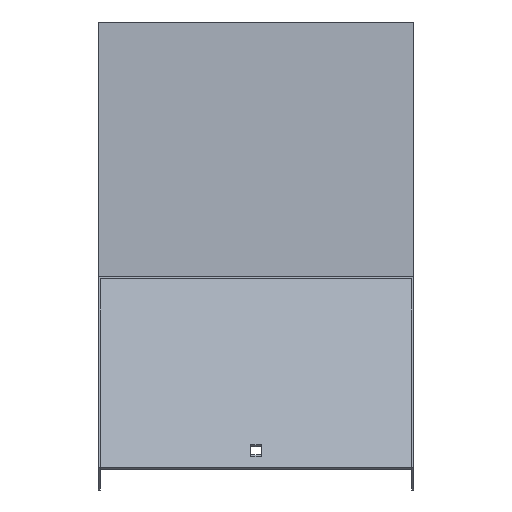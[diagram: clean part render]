
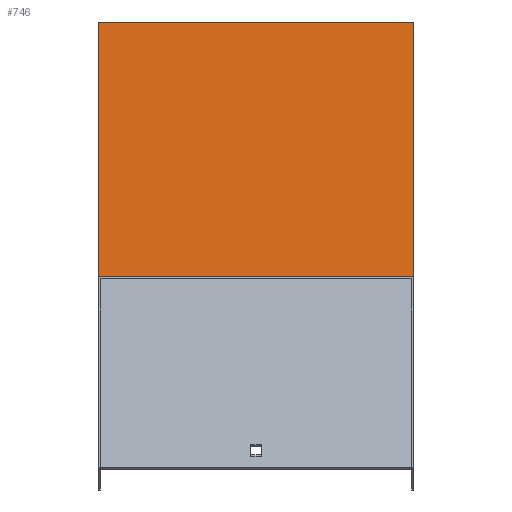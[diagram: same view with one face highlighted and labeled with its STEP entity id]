
A CAD part, top view. The second image highlights one B-rep face of the part: STEP entity #746.
In plain terms, the highlighted planar face has unit normal (0, 0.924, 0.383).
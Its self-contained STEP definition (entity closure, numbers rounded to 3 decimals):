
#16 = ORIENTED_EDGE ( 'NONE', *, *, #49, .T. ) ;
#49 = EDGE_CURVE ( 'NONE', #232, #540, #384, .T. ) ;
#54 = VERTEX_POINT ( 'NONE', #763 ) ;
#59 = EDGE_LOOP ( 'NONE', ( #218, #833, #368, #16 ) ) ;
#66 = LINE ( 'NONE', #664, #614 ) ;
#104 = EDGE_CURVE ( 'NONE', #232, #54, #66, .T. ) ;
#121 = DIRECTION ( 'NONE',  ( -1., 0., 0. ) ) ;
#168 = VECTOR ( 'NONE', #121, 1000. ) ;
#188 = CARTESIAN_POINT ( 'NONE',  ( 101.5, -144.537, 571.206 ) ) ;
#202 = DIRECTION ( 'NONE',  ( 0., -0.383, 0.924 ) ) ;
#218 = ORIENTED_EDGE ( 'NONE', *, *, #449, .T. ) ;
#232 = VERTEX_POINT ( 'NONE', #628 ) ;
#305 = VECTOR ( 'NONE', #202, 1000. ) ;
#352 = VECTOR ( 'NONE', #565, 1000. ) ;
#368 = ORIENTED_EDGE ( 'NONE', *, *, #104, .F. ) ;
#378 = DIRECTION ( 'NONE',  ( 0., -0.924, -0.383 ) ) ;
#384 = LINE ( 'NONE', #695, #352 ) ;
#449 = EDGE_CURVE ( 'NONE', #540, #705, #481, .T. ) ;
#461 = DIRECTION ( 'NONE',  ( 0., 0.383, -0.924 ) ) ;
#481 = LINE ( 'NONE', #732, #305 ) ;
#495 = CARTESIAN_POINT ( 'NONE',  ( -101.5, 20., 173.978 ) ) ;
#521 = LINE ( 'NONE', #188, #168 ) ;
#540 = VERTEX_POINT ( 'NONE', #495 ) ;
#565 = DIRECTION ( 'NONE',  ( -1., 0., 0. ) ) ;
#589 = CARTESIAN_POINT ( 'NONE',  ( -101.5, -144.537, 571.206 ) ) ;
#614 = VECTOR ( 'NONE', #715, 1000. ) ;
#628 = CARTESIAN_POINT ( 'NONE',  ( 101.5, 20., 173.978 ) ) ;
#664 = CARTESIAN_POINT ( 'NONE',  ( 101.5, 18.478, 177.654 ) ) ;
#695 = CARTESIAN_POINT ( 'NONE',  ( 101.5, 20., 173.978 ) ) ;
#705 = VERTEX_POINT ( 'NONE', #589 ) ;
#715 = DIRECTION ( 'NONE',  ( 0., -0.383, 0.924 ) ) ;
#732 = CARTESIAN_POINT ( 'NONE',  ( -101.5, 18.478, 177.654 ) ) ;
#746 = ADVANCED_FACE ( 'NONE', ( #849 ), #792, .F. ) ;
#753 = EDGE_CURVE ( 'NONE', #54, #705, #521, .T. ) ;
#763 = CARTESIAN_POINT ( 'NONE',  ( 101.5, -144.537, 571.206 ) ) ;
#771 = CARTESIAN_POINT ( 'NONE',  ( 101.5, 18.478, 177.654 ) ) ;
#792 = PLANE ( 'NONE',  #819 ) ;
#819 = AXIS2_PLACEMENT_3D ( 'NONE', #771, #378, #461 ) ;
#833 = ORIENTED_EDGE ( 'NONE', *, *, #753, .F. ) ;
#849 = FACE_OUTER_BOUND ( 'NONE', #59, .T. ) ;
